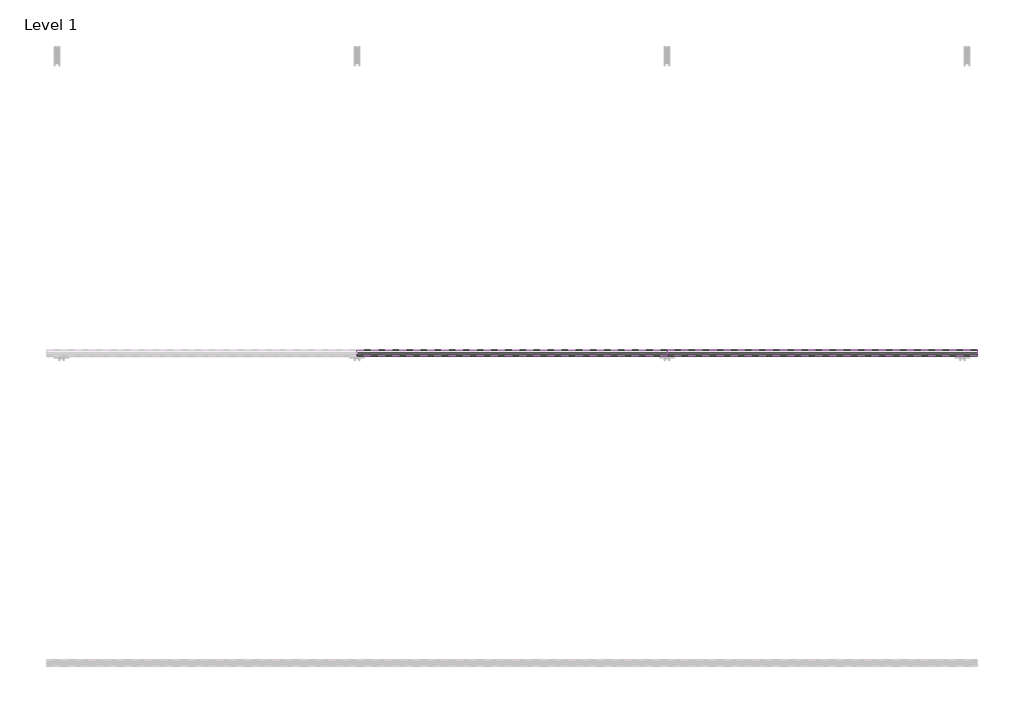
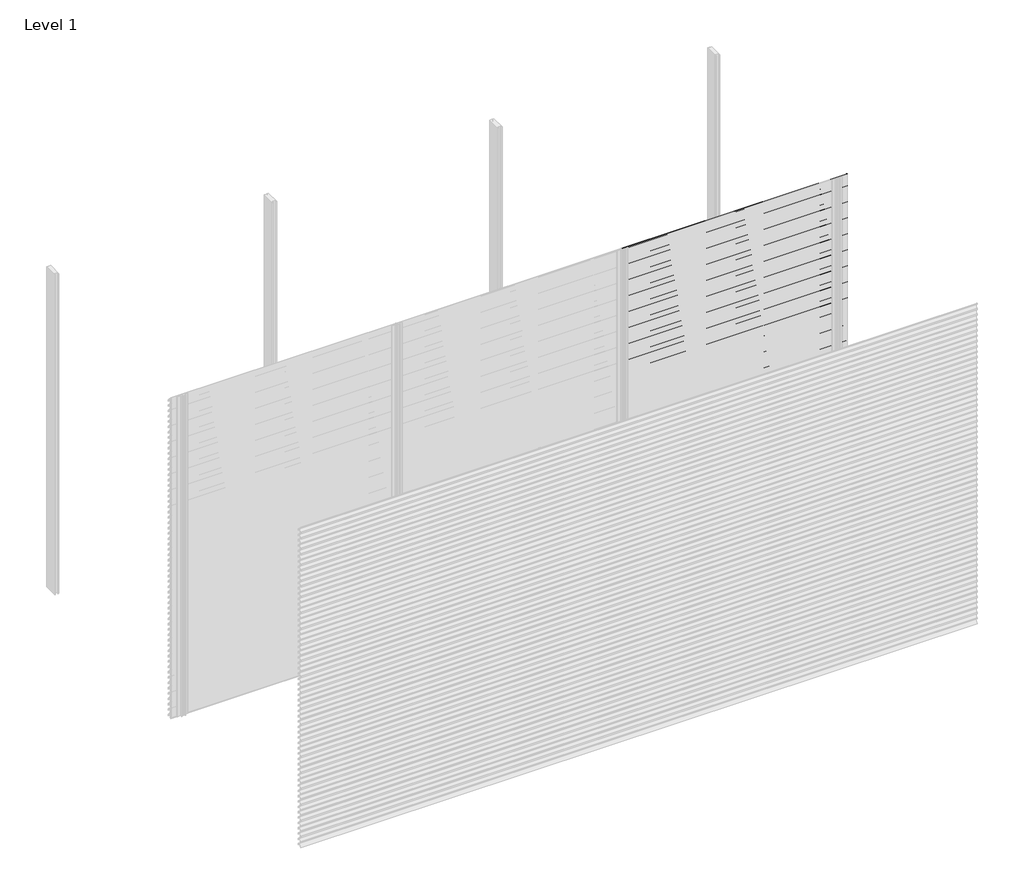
# One storey, part 5 of 38: 66 proxies.
"""IFC4 building model written with IfcOpenShell, lengths in millimetres."""

from ifc_helpers import new_model, si_unit, frame, origin, place, context, project, spatial, polyline, outline, extrude, element, save

model = new_model("IFC4")

# Units and contexts
model_context = context("Model", 3, world=origin())
ifc_project = project(units=[si_unit("LENGTHUNIT", "METRE", prefix="MILLI")], contexts=[model_context])

# Site, building, storey
site = spatial("IfcSite", under=ifc_project)
building = spatial("IfcBuilding", under=site)
storey = spatial("IfcBuildingStorey", under=building, Name="Level 1", Elevation=0.0)

# Proxies
placement = place(None, origin())
element("IfcBuildingElementProxy", 1, Name="Wall Sweeps", at=placement, inside=storey, context=model_context, shape_type="SweptSolid", body=[
    extrude(outline(polyline([(-53996.75, 1350.0), (-53996.75, 1339.19656), (-53974.6057113, 1326.4115489), (-53957.0, 1309.0472005), (-53957.0, 1294.0472005), (-53958.3, 1295.0268207), (-53958.3, 1308.5034593), (-53969.4914725, 1319.541504), (-53994.2797376, 1290.0), (-53995.9767671, 1290.0), (-53970.4200307, 1320.4573323), (-53975.3999793, 1325.3690091), (-53998.0, 1338.4171371), (-53998.0, 1350.0), (-53996.75, 1350.0)])), frame((2000.0, 0.0, 0.0), z_axis=(1.0, 0.0, 0.0), x_axis=(0.0, 1.0, 0.0)), (0.0, 0.0, 1.0), 2000.0),
])
element("IfcBuildingElementProxy", 2, Name="Wall Sweeps", at=placement, inside=storey, context=model_context, shape_type="SweptSolid", body=[
    extrude(outline(polyline([(-53996.75, 1300.0), (-53996.75, 1289.19656), (-53974.6057113, 1276.4115489), (-53957.0, 1259.0472005), (-53957.0, 1244.0472005), (-53958.3, 1245.0268207), (-53958.3, 1258.5034593), (-53969.4914725, 1269.541504), (-53994.2797376, 1240.0), (-53995.9767671, 1240.0), (-53970.4200307, 1270.4573323), (-53975.3999793, 1275.3690091), (-53998.0, 1288.4171371), (-53998.0, 1300.0), (-53996.75, 1300.0)])), frame((2000.0, 0.0, 0.0), z_axis=(1.0, 0.0, 0.0), x_axis=(0.0, 1.0, 0.0)), (0.0, 0.0, 1.0), 2000.0),
])
element("IfcBuildingElementProxy", 3, Name="Wall Sweeps", at=placement, inside=storey, context=model_context, shape_type="SweptSolid", body=[
    extrude(outline(polyline([(-53996.75, 1250.0), (-53996.75, 1239.19656), (-53974.6057113, 1226.4115489), (-53957.0, 1209.0472005), (-53957.0, 1194.0472005), (-53958.3, 1195.0268207), (-53958.3, 1208.5034593), (-53969.4914725, 1219.541504), (-53994.2797376, 1190.0), (-53995.9767671, 1190.0), (-53970.4200307, 1220.4573323), (-53975.3999793, 1225.3690091), (-53998.0, 1238.4171371), (-53998.0, 1250.0), (-53996.75, 1250.0)])), frame((2000.0, 0.0, 0.0), z_axis=(1.0, 0.0, 0.0), x_axis=(0.0, 1.0, 0.0)), (0.0, 0.0, 1.0), 2000.0),
])
element("IfcBuildingElementProxy", 4, Name="Wall Sweeps", at=placement, inside=storey, context=model_context, shape_type="SweptSolid", body=[
    extrude(outline(polyline([(-53996.75, 1200.0), (-53996.75, 1189.19656), (-53974.6057113, 1176.4115489), (-53957.0, 1159.0472005), (-53957.0, 1144.0472005), (-53958.3, 1145.0268207), (-53958.3, 1158.5034593), (-53969.4914725, 1169.541504), (-53994.2797376, 1140.0), (-53995.9767671, 1140.0), (-53970.4200307, 1170.4573323), (-53975.3999793, 1175.3690091), (-53998.0, 1188.4171371), (-53998.0, 1200.0), (-53996.75, 1200.0)])), frame((2000.0, 0.0, 0.0), z_axis=(1.0, 0.0, 0.0), x_axis=(0.0, 1.0, 0.0)), (0.0, 0.0, 1.0), 2000.0),
])
element("IfcBuildingElementProxy", 5, Name="Wall Sweeps", at=placement, inside=storey, context=model_context, shape_type="SweptSolid", body=[
    extrude(outline(polyline([(-53996.75, 1150.0), (-53996.75, 1139.19656), (-53974.6057113, 1126.4115489), (-53957.0, 1109.0472005), (-53957.0, 1094.0472005), (-53958.3, 1095.0268207), (-53958.3, 1108.5034593), (-53969.4914725, 1119.541504), (-53994.2797376, 1090.0), (-53995.9767671, 1090.0), (-53970.4200307, 1120.4573323), (-53975.3999793, 1125.3690091), (-53998.0, 1138.4171371), (-53998.0, 1150.0), (-53996.75, 1150.0)])), frame((2000.0, 0.0, 0.0), z_axis=(1.0, 0.0, 0.0), x_axis=(0.0, 1.0, 0.0)), (0.0, 0.0, 1.0), 2000.0),
])
element("IfcBuildingElementProxy", 6, Name="Wall Sweeps", at=placement, inside=storey, context=model_context, shape_type="SweptSolid", body=[
    extrude(outline(polyline([(-53996.75, 1100.0), (-53996.75, 1089.19656), (-53974.6057113, 1076.4115489), (-53957.0, 1059.0472005), (-53957.0, 1044.0472005), (-53958.3, 1045.0268207), (-53958.3, 1058.5034593), (-53969.4914725, 1069.541504), (-53994.2797376, 1040.0), (-53995.9767671, 1040.0), (-53970.4200307, 1070.4573323), (-53975.3999793, 1075.3690091), (-53998.0, 1088.4171371), (-53998.0, 1100.0), (-53996.75, 1100.0)])), frame((2000.0, 0.0, 0.0), z_axis=(1.0, 0.0, 0.0), x_axis=(0.0, 1.0, 0.0)), (0.0, 0.0, 1.0), 2000.0),
])
element("IfcBuildingElementProxy", 7, Name="Wall Sweeps", at=placement, inside=storey, context=model_context, shape_type="SweptSolid", body=[
    extrude(outline(polyline([(-53996.75, 1050.0), (-53996.75, 1039.19656), (-53974.6057113, 1026.4115489), (-53957.0, 1009.0472005), (-53957.0, 994.0472005), (-53958.3, 995.0268207), (-53958.3, 1008.5034593), (-53969.4914725, 1019.541504), (-53994.2797376, 990.0), (-53995.9767671, 990.0), (-53970.4200307, 1020.4573323), (-53975.3999793, 1025.3690091), (-53998.0, 1038.4171371), (-53998.0, 1050.0), (-53996.75, 1050.0)])), frame((2000.0, 0.0, 0.0), z_axis=(1.0, 0.0, 0.0), x_axis=(0.0, 1.0, 0.0)), (0.0, 0.0, 1.0), 2000.0),
])
element("IfcBuildingElementProxy", 8, Name="Wall Sweeps", at=placement, inside=storey, context=model_context, shape_type="SweptSolid", body=[
    extrude(outline(polyline([(-53996.75, 1000.0), (-53996.75, 989.19656), (-53974.6057113, 976.4115489), (-53957.0, 959.0472005), (-53957.0, 944.0472005), (-53958.3, 945.0268207), (-53958.3, 958.5034593), (-53969.4914725, 969.541504), (-53994.2797376, 940.0), (-53995.9767671, 940.0), (-53970.4200307, 970.4573323), (-53975.3999793, 975.3690091), (-53998.0, 988.4171371), (-53998.0, 1000.0), (-53996.75, 1000.0)])), frame((2000.0, 0.0, 0.0), z_axis=(1.0, 0.0, 0.0), x_axis=(0.0, 1.0, 0.0)), (0.0, 0.0, 1.0), 2000.0),
])
element("IfcBuildingElementProxy", 9, Name="Wall Sweeps", at=placement, inside=storey, context=model_context, shape_type="SweptSolid", body=[
    extrude(outline(polyline([(-53996.75, 950.0), (-53996.75, 939.19656), (-53974.6057113, 926.4115489), (-53957.0, 909.0472005), (-53957.0, 894.0472005), (-53958.3, 895.0268207), (-53958.3, 908.5034593), (-53969.4914725, 919.541504), (-53994.2797376, 890.0), (-53995.9767671, 890.0), (-53970.4200307, 920.4573323), (-53975.3999793, 925.3690091), (-53998.0, 938.4171371), (-53998.0, 950.0), (-53996.75, 950.0)])), frame((2000.0, 0.0, 0.0), z_axis=(1.0, 0.0, 0.0), x_axis=(0.0, 1.0, 0.0)), (0.0, 0.0, 1.0), 2000.0),
])
element("IfcBuildingElementProxy", 10, Name="Wall Sweeps", at=placement, inside=storey, context=model_context, shape_type="SweptSolid", body=[
    extrude(outline(polyline([(-53996.75, 900.0), (-53996.75, 889.19656), (-53974.6057113, 876.4115489), (-53957.0, 859.0472005), (-53957.0, 844.0472005), (-53958.3, 845.0268207), (-53958.3, 858.5034593), (-53969.4914725, 869.541504), (-53994.2797376, 840.0), (-53995.9767671, 840.0), (-53970.4200307, 870.4573323), (-53975.3999793, 875.3690091), (-53998.0, 888.4171371), (-53998.0, 900.0), (-53996.75, 900.0)])), frame((2000.0, 0.0, 0.0), z_axis=(1.0, 0.0, 0.0), x_axis=(0.0, 1.0, 0.0)), (0.0, 0.0, 1.0), 2000.0),
])
element("IfcBuildingElementProxy", 11, Name="Wall Sweeps", at=placement, inside=storey, context=model_context, shape_type="SweptSolid", body=[
    extrude(outline(polyline([(-53996.75, 850.0), (-53996.75, 839.19656), (-53974.6057113, 826.4115489), (-53957.0, 809.0472005), (-53957.0, 794.0472005), (-53958.3, 795.0268207), (-53958.3, 808.5034593), (-53969.4914725, 819.541504), (-53994.2797376, 790.0), (-53995.9767671, 790.0), (-53970.4200307, 820.4573323), (-53975.3999793, 825.3690091), (-53998.0, 838.4171371), (-53998.0, 850.0), (-53996.75, 850.0)])), frame((2000.0, 0.0, 0.0), z_axis=(1.0, 0.0, 0.0), x_axis=(0.0, 1.0, 0.0)), (0.0, 0.0, 1.0), 2000.0),
])
element("IfcBuildingElementProxy", 12, Name="Wall Sweeps", at=placement, inside=storey, context=model_context, shape_type="SweptSolid", body=[
    extrude(outline(polyline([(-53996.75, 800.0), (-53996.75, 789.19656), (-53974.6057113, 776.4115489), (-53957.0, 759.0472005), (-53957.0, 744.0472005), (-53958.3, 745.0268207), (-53958.3, 758.5034593), (-53969.4914725, 769.541504), (-53994.2797376, 740.0), (-53995.9767671, 740.0), (-53970.4200307, 770.4573323), (-53975.3999793, 775.3690091), (-53998.0, 788.4171371), (-53998.0, 800.0), (-53996.75, 800.0)])), frame((2000.0, 0.0, 0.0), z_axis=(1.0, 0.0, 0.0), x_axis=(0.0, 1.0, 0.0)), (0.0, 0.0, 1.0), 2000.0),
])
element("IfcBuildingElementProxy", 13, Name="Wall Sweeps", at=placement, inside=storey, context=model_context, shape_type="SweptSolid", body=[
    extrude(outline(polyline([(-53996.75, 750.0), (-53996.75, 739.19656), (-53974.6057113, 726.4115489), (-53957.0, 709.0472005), (-53957.0, 694.0472005), (-53958.3, 695.0268207), (-53958.3, 708.5034593), (-53969.4914725, 719.541504), (-53994.2797376, 690.0), (-53995.9767671, 690.0), (-53970.4200307, 720.4573323), (-53975.3999793, 725.3690091), (-53998.0, 738.4171371), (-53998.0, 750.0), (-53996.75, 750.0)])), frame((2000.0, 0.0, 0.0), z_axis=(1.0, 0.0, 0.0), x_axis=(0.0, 1.0, 0.0)), (0.0, 0.0, 1.0), 2000.0),
])
element("IfcBuildingElementProxy", 14, Name="Wall Sweeps", at=placement, inside=storey, context=model_context, shape_type="SweptSolid", body=[
    extrude(outline(polyline([(-53996.75, 700.0), (-53996.75, 689.19656), (-53974.6057113, 676.4115489), (-53957.0, 659.0472005), (-53957.0, 644.0472005), (-53958.3, 645.0268207), (-53958.3, 658.5034593), (-53969.4914725, 669.541504), (-53994.2797376, 640.0), (-53995.9767671, 640.0), (-53970.4200307, 670.4573323), (-53975.3999793, 675.3690091), (-53998.0, 688.4171371), (-53998.0, 700.0), (-53996.75, 700.0)])), frame((2000.0, 0.0, 0.0), z_axis=(1.0, 0.0, 0.0), x_axis=(0.0, 1.0, 0.0)), (0.0, 0.0, 1.0), 2000.0),
])
element("IfcBuildingElementProxy", 15, Name="Wall Sweeps", at=placement, inside=storey, context=model_context, shape_type="SweptSolid", body=[
    extrude(outline(polyline([(-53996.75, 650.0), (-53996.75, 639.19656), (-53974.6057113, 626.4115489), (-53957.0, 609.0472005), (-53957.0, 594.0472005), (-53958.3, 595.0268207), (-53958.3, 608.5034593), (-53969.4914725, 619.541504), (-53994.2797376, 590.0), (-53995.9767671, 590.0), (-53970.4200307, 620.4573323), (-53975.3999793, 625.3690091), (-53998.0, 638.4171371), (-53998.0, 650.0), (-53996.75, 650.0)])), frame((2000.0, 0.0, 0.0), z_axis=(1.0, 0.0, 0.0), x_axis=(0.0, 1.0, 0.0)), (0.0, 0.0, 1.0), 2000.0),
])
element("IfcBuildingElementProxy", 16, Name="Wall Sweeps", at=placement, inside=storey, context=model_context, shape_type="SweptSolid", body=[
    extrude(outline(polyline([(-53996.75, 600.0), (-53996.75, 589.19656), (-53974.6057113, 576.4115489), (-53957.0, 559.0472005), (-53957.0, 544.0472005), (-53958.3, 545.0268207), (-53958.3, 558.5034593), (-53969.4914725, 569.541504), (-53994.2797376, 540.0), (-53995.9767671, 540.0), (-53970.4200307, 570.4573323), (-53975.3999793, 575.3690091), (-53998.0, 588.4171371), (-53998.0, 600.0), (-53996.75, 600.0)])), frame((2000.0, 0.0, 0.0), z_axis=(1.0, 0.0, 0.0), x_axis=(0.0, 1.0, 0.0)), (0.0, 0.0, 1.0), 2000.0),
])
element("IfcBuildingElementProxy", 17, Name="Wall Sweeps", at=placement, inside=storey, context=model_context, shape_type="SweptSolid", body=[
    extrude(outline(polyline([(-53996.75, 550.0), (-53996.75, 539.19656), (-53974.6057113, 526.4115489), (-53957.0, 509.0472005), (-53957.0, 494.0472005), (-53958.3, 495.0268207), (-53958.3, 508.5034593), (-53969.4914725, 519.541504), (-53994.2797376, 490.0), (-53995.9767671, 490.0), (-53970.4200307, 520.4573323), (-53975.3999793, 525.3690091), (-53998.0, 538.4171371), (-53998.0, 550.0), (-53996.75, 550.0)])), frame((2000.0, 0.0, 0.0), z_axis=(1.0, 0.0, 0.0), x_axis=(0.0, 1.0, 0.0)), (0.0, 0.0, 1.0), 2000.0),
])
element("IfcBuildingElementProxy", 18, Name="Wall Sweeps", at=placement, inside=storey, context=model_context, shape_type="SweptSolid", body=[
    extrude(outline(polyline([(-53996.75, 500.0), (-53996.75, 489.19656), (-53974.6057113, 476.4115489), (-53957.0, 459.0472005), (-53957.0, 444.0472005), (-53958.3, 445.0268207), (-53958.3, 458.5034593), (-53969.4914725, 469.541504), (-53994.2797376, 440.0), (-53995.9767671, 440.0), (-53970.4200307, 470.4573323), (-53975.3999793, 475.3690091), (-53998.0, 488.4171371), (-53998.0, 500.0), (-53996.75, 500.0)])), frame((2000.0, 0.0, 0.0), z_axis=(1.0, 0.0, 0.0), x_axis=(0.0, 1.0, 0.0)), (0.0, 0.0, 1.0), 2000.0),
])
element("IfcBuildingElementProxy", 19, Name="Wall Sweeps", at=placement, inside=storey, context=model_context, shape_type="SweptSolid", body=[
    extrude(outline(polyline([(-53996.75, 450.0), (-53996.75, 439.19656), (-53974.6057113, 426.4115489), (-53957.0, 409.0472005), (-53957.0, 394.0472005), (-53958.3, 395.0268207), (-53958.3, 408.5034593), (-53969.4914725, 419.541504), (-53994.2797376, 390.0), (-53995.9767671, 390.0), (-53970.4200307, 420.4573323), (-53975.3999793, 425.3690091), (-53998.0, 438.4171371), (-53998.0, 450.0), (-53996.75, 450.0)])), frame((2000.0, 0.0, 0.0), z_axis=(1.0, 0.0, 0.0), x_axis=(0.0, 1.0, 0.0)), (0.0, 0.0, 1.0), 2000.0),
])
element("IfcBuildingElementProxy", 20, Name="Wall Sweeps", at=placement, inside=storey, context=model_context, shape_type="SweptSolid", body=[
    extrude(outline(polyline([(-53996.75, 400.0), (-53996.75, 389.19656), (-53974.6057113, 376.4115489), (-53957.0, 359.0472005), (-53957.0, 344.0472005), (-53958.3, 345.0268207), (-53958.3, 358.5034593), (-53969.4914725, 369.541504), (-53994.2797376, 340.0), (-53995.9767671, 340.0), (-53970.4200307, 370.4573323), (-53975.3999793, 375.3690091), (-53998.0, 388.4171371), (-53998.0, 400.0), (-53996.75, 400.0)])), frame((2000.0, 0.0, 0.0), z_axis=(1.0, 0.0, 0.0), x_axis=(0.0, 1.0, 0.0)), (0.0, 0.0, 1.0), 2000.0),
])
element("IfcBuildingElementProxy", 21, Name="Wall Sweeps", at=placement, inside=storey, context=model_context, shape_type="SweptSolid", body=[
    extrude(outline(polyline([(-53996.75, 350.0), (-53996.75, 339.19656), (-53974.6057113, 326.4115489), (-53957.0, 309.0472005), (-53957.0, 294.0472005), (-53958.3, 295.0268207), (-53958.3, 308.5034593), (-53969.4914725, 319.541504), (-53994.2797376, 290.0), (-53995.9767671, 290.0), (-53970.4200307, 320.4573323), (-53975.3999793, 325.3690091), (-53998.0, 338.4171371), (-53998.0, 350.0), (-53996.75, 350.0)])), frame((2000.0, 0.0, 0.0), z_axis=(1.0, 0.0, 0.0), x_axis=(0.0, 1.0, 0.0)), (0.0, 0.0, 1.0), 2000.0),
])
element("IfcBuildingElementProxy", 22, Name="Wall Sweeps", at=placement, inside=storey, context=model_context, shape_type="SweptSolid", body=[
    extrude(outline(polyline([(-53996.75, 300.0), (-53996.75, 289.19656), (-53974.6057113, 276.4115489), (-53957.0, 259.0472005), (-53957.0, 244.0472005), (-53958.3, 245.0268207), (-53958.3, 258.5034593), (-53969.4914725, 269.541504), (-53994.2797376, 240.0), (-53995.9767671, 240.0), (-53970.4200307, 270.4573323), (-53975.3999793, 275.3690091), (-53998.0, 288.4171371), (-53998.0, 300.0), (-53996.75, 300.0)])), frame((2000.0, 0.0, 0.0), z_axis=(1.0, 0.0, 0.0), x_axis=(0.0, 1.0, 0.0)), (0.0, 0.0, 1.0), 2000.0),
])
element("IfcBuildingElementProxy", 23, Name="Wall Sweeps", at=placement, inside=storey, context=model_context, shape_type="SweptSolid", body=[
    extrude(outline(polyline([(-53996.75, 250.0), (-53996.75, 239.19656), (-53974.6057113, 226.4115489), (-53957.0, 209.0472005), (-53957.0, 194.0472005), (-53958.3, 195.0268207), (-53958.3, 208.5034593), (-53969.4914725, 219.541504), (-53994.2797376, 190.0), (-53995.9767671, 190.0), (-53970.4200307, 220.4573323), (-53975.3999793, 225.3690091), (-53998.0, 238.4171371), (-53998.0, 250.0), (-53996.75, 250.0)])), frame((2000.0, 0.0, 0.0), z_axis=(1.0, 0.0, 0.0), x_axis=(0.0, 1.0, 0.0)), (0.0, 0.0, 1.0), 2000.0),
])
element("IfcBuildingElementProxy", 24, Name="Wall Sweeps", at=placement, inside=storey, context=model_context, shape_type="SweptSolid", body=[
    extrude(outline(polyline([(-53996.75, 200.0), (-53996.75, 189.19656), (-53974.6057113, 176.4115489), (-53957.0, 159.0472005), (-53957.0, 144.0472005), (-53958.3, 145.0268207), (-53958.3, 158.5034593), (-53969.4914725, 169.541504), (-53994.2797376, 140.0), (-53995.9767671, 140.0), (-53970.4200307, 170.4573323), (-53975.3999793, 175.3690091), (-53998.0, 188.4171371), (-53998.0, 200.0), (-53996.75, 200.0)])), frame((2000.0, 0.0, 0.0), z_axis=(1.0, 0.0, 0.0), x_axis=(0.0, 1.0, 0.0)), (0.0, 0.0, 1.0), 2000.0),
])
element("IfcBuildingElementProxy", 25, Name="Wall Sweeps", at=placement, inside=storey, context=model_context, shape_type="SweptSolid", body=[
    extrude(outline(polyline([(-53996.75, 150.0), (-53996.75, 139.19656), (-53974.6057113, 126.4115489), (-53957.0, 109.0472005), (-53957.0, 94.0472005), (-53958.3, 95.0268207), (-53958.3, 108.5034593), (-53969.4914725, 119.541504), (-53994.2797376, 90.0), (-53995.9767671, 90.0), (-53970.4200307, 120.4573323), (-53975.3999793, 125.3690091), (-53998.0, 138.4171371), (-53998.0, 150.0), (-53996.75, 150.0)])), frame((2000.0, 0.0, 0.0), z_axis=(1.0, 0.0, 0.0), x_axis=(0.0, 1.0, 0.0)), (0.0, 0.0, 1.0), 2000.0),
])
element("IfcBuildingElementProxy", 26, Name="Wall Sweeps", at=placement, inside=storey, context=model_context, shape_type="SweptSolid", body=[
    extrude(outline(polyline([(-53996.75, 100.0), (-53996.75, 89.19656), (-53974.6057113, 76.4115489), (-53957.0, 59.0472005), (-53957.0, 44.0472005), (-53958.3, 45.0268207), (-53958.3, 58.5034593), (-53969.4914725, 69.541504), (-53994.2797376, 40.0), (-53995.9767671, 40.0), (-53970.4200307, 70.4573323), (-53975.3999793, 75.3690091), (-53998.0, 88.4171371), (-53998.0, 100.0), (-53996.75, 100.0)])), frame((2000.0, 0.0, 0.0), z_axis=(1.0, 0.0, 0.0), x_axis=(0.0, 1.0, 0.0)), (0.0, 0.0, 1.0), 2000.0),
])
element("IfcBuildingElementProxy", 27, Name="Wall Sweeps", at=placement, inside=storey, context=model_context, shape_type="SweptSolid", body=[
    extrude(outline(polyline([(-53996.75, 50.0), (-53996.75, 39.19656), (-53974.6057113, 26.4115489), (-53957.0, 9.0472005), (-53957.0, -5.9527995), (-53958.3, -4.9731793), (-53958.3, 8.5034593), (-53969.4914725, 19.541504), (-53994.2797376, -10.0), (-53995.9767671, -10.0), (-53970.4200307, 20.4573323), (-53975.3999793, 25.3690091), (-53998.0, 38.4171371), (-53998.0, 50.0), (-53996.75, 50.0)])), frame((2000.0, 0.0, 0.0), z_axis=(1.0, 0.0, 0.0), x_axis=(0.0, 1.0, 0.0)), (0.0, 0.0, 1.0), 2000.0),
])
element("IfcBuildingElementProxy", 28, Name="Wall Sweeps", at=placement, inside=storey, context=model_context, shape_type="SweptSolid", body=[
    extrude(outline(polyline([(-53996.75, 3000.0), (-53996.75, 2989.19656), (-53974.6057113, 2976.4115489), (-53957.0, 2959.0472005), (-53957.0, 2944.0472005), (-53958.3, 2945.0268207), (-53958.3, 2958.5034593), (-53969.4914725, 2969.541504), (-53994.2797376, 2940.0), (-53995.9767671, 2940.0), (-53970.4200307, 2970.4573323), (-53975.3999793, 2975.3690091), (-53998.0, 2988.4171371), (-53998.0, 3000.0), (-53996.75, 3000.0)])), frame((4000.0, 0.0, 0.0), z_axis=(1.0, 0.0, 0.0), x_axis=(0.0, 1.0, 0.0)), (0.0, 0.0, 1.0), 2000.0),
])
element("IfcBuildingElementProxy", 29, Name="Wall Sweeps", at=placement, inside=storey, context=model_context, shape_type="SweptSolid", body=[
    extrude(outline(polyline([(-53996.75, 2950.0), (-53996.75, 2939.19656), (-53974.6057113, 2926.4115489), (-53957.0, 2909.0472005), (-53957.0, 2894.0472005), (-53958.3, 2895.0268207), (-53958.3, 2908.5034593), (-53969.4914725, 2919.541504), (-53994.2797376, 2890.0), (-53995.9767671, 2890.0), (-53970.4200307, 2920.4573323), (-53975.3999793, 2925.3690091), (-53998.0, 2938.4171371), (-53998.0, 2950.0), (-53996.75, 2950.0)])), frame((4000.0, 0.0, 0.0), z_axis=(1.0, 0.0, 0.0), x_axis=(0.0, 1.0, 0.0)), (0.0, 0.0, 1.0), 2000.0),
])
element("IfcBuildingElementProxy", 30, Name="Wall Sweeps", at=placement, inside=storey, context=model_context, shape_type="SweptSolid", body=[
    extrude(outline(polyline([(-53996.75, 2900.0), (-53996.75, 2889.19656), (-53974.6057113, 2876.4115489), (-53957.0, 2859.0472005), (-53957.0, 2844.0472005), (-53958.3, 2845.0268207), (-53958.3, 2858.5034593), (-53969.4914725, 2869.541504), (-53994.2797376, 2840.0), (-53995.9767671, 2840.0), (-53970.4200307, 2870.4573323), (-53975.3999793, 2875.3690091), (-53998.0, 2888.4171371), (-53998.0, 2900.0), (-53996.75, 2900.0)])), frame((4000.0, 0.0, 0.0), z_axis=(1.0, 0.0, 0.0), x_axis=(0.0, 1.0, 0.0)), (0.0, 0.0, 1.0), 2000.0),
])
element("IfcBuildingElementProxy", 31, Name="Wall Sweeps", at=placement, inside=storey, context=model_context, shape_type="SweptSolid", body=[
    extrude(outline(polyline([(-53996.75, 2850.0), (-53996.75, 2839.19656), (-53974.6057113, 2826.4115489), (-53957.0, 2809.0472005), (-53957.0, 2794.0472005), (-53958.3, 2795.0268207), (-53958.3, 2808.5034593), (-53969.4914725, 2819.541504), (-53994.2797376, 2790.0), (-53995.9767671, 2790.0), (-53970.4200307, 2820.4573323), (-53975.3999793, 2825.3690091), (-53998.0, 2838.4171371), (-53998.0, 2850.0), (-53996.75, 2850.0)])), frame((4000.0, 0.0, 0.0), z_axis=(1.0, 0.0, 0.0), x_axis=(0.0, 1.0, 0.0)), (0.0, 0.0, 1.0), 2000.0),
])
element("IfcBuildingElementProxy", 32, Name="Wall Sweeps", at=placement, inside=storey, context=model_context, shape_type="SweptSolid", body=[
    extrude(outline(polyline([(-53996.75, 2800.0), (-53996.75, 2789.19656), (-53974.6057113, 2776.4115489), (-53957.0, 2759.0472005), (-53957.0, 2744.0472005), (-53958.3, 2745.0268207), (-53958.3, 2758.5034593), (-53969.4914725, 2769.541504), (-53994.2797376, 2740.0), (-53995.9767671, 2740.0), (-53970.4200307, 2770.4573323), (-53975.3999793, 2775.3690091), (-53998.0, 2788.4171371), (-53998.0, 2800.0), (-53996.75, 2800.0)])), frame((4000.0, 0.0, 0.0), z_axis=(1.0, 0.0, 0.0), x_axis=(0.0, 1.0, 0.0)), (0.0, 0.0, 1.0), 2000.0),
])
element("IfcBuildingElementProxy", 33, Name="Wall Sweeps", at=placement, inside=storey, context=model_context, shape_type="SweptSolid", body=[
    extrude(outline(polyline([(-53996.75, 2750.0), (-53996.75, 2739.19656), (-53974.6057113, 2726.4115489), (-53957.0, 2709.0472005), (-53957.0, 2694.0472005), (-53958.3, 2695.0268207), (-53958.3, 2708.5034593), (-53969.4914725, 2719.541504), (-53994.2797376, 2690.0), (-53995.9767671, 2690.0), (-53970.4200307, 2720.4573323), (-53975.3999793, 2725.3690091), (-53998.0, 2738.4171371), (-53998.0, 2750.0), (-53996.75, 2750.0)])), frame((4000.0, 0.0, 0.0), z_axis=(1.0, 0.0, 0.0), x_axis=(0.0, 1.0, 0.0)), (0.0, 0.0, 1.0), 2000.0),
])
element("IfcBuildingElementProxy", 34, Name="Wall Sweeps", at=placement, inside=storey, context=model_context, shape_type="SweptSolid", body=[
    extrude(outline(polyline([(-53996.75, 2700.0), (-53996.75, 2689.19656), (-53974.6057113, 2676.4115489), (-53957.0, 2659.0472005), (-53957.0, 2644.0472005), (-53958.3, 2645.0268207), (-53958.3, 2658.5034593), (-53969.4914725, 2669.541504), (-53994.2797376, 2640.0), (-53995.9767671, 2640.0), (-53970.4200307, 2670.4573323), (-53975.3999793, 2675.3690091), (-53998.0, 2688.4171371), (-53998.0, 2700.0), (-53996.75, 2700.0)])), frame((4000.0, 0.0, 0.0), z_axis=(1.0, 0.0, 0.0), x_axis=(0.0, 1.0, 0.0)), (0.0, 0.0, 1.0), 2000.0),
])
element("IfcBuildingElementProxy", 35, Name="Wall Sweeps", at=placement, inside=storey, context=model_context, shape_type="SweptSolid", body=[
    extrude(outline(polyline([(-53996.75, 2650.0), (-53996.75, 2639.19656), (-53974.6057113, 2626.4115489), (-53957.0, 2609.0472005), (-53957.0, 2594.0472005), (-53958.3, 2595.0268207), (-53958.3, 2608.5034593), (-53969.4914725, 2619.541504), (-53994.2797376, 2590.0), (-53995.9767671, 2590.0), (-53970.4200307, 2620.4573323), (-53975.3999793, 2625.3690091), (-53998.0, 2638.4171371), (-53998.0, 2650.0), (-53996.75, 2650.0)])), frame((4000.0, 0.0, 0.0), z_axis=(1.0, 0.0, 0.0), x_axis=(0.0, 1.0, 0.0)), (0.0, 0.0, 1.0), 2000.0),
])
element("IfcBuildingElementProxy", 36, Name="Wall Sweeps", at=placement, inside=storey, context=model_context, shape_type="SweptSolid", body=[
    extrude(outline(polyline([(-53996.75, 2600.0), (-53996.75, 2589.19656), (-53974.6057113, 2576.4115489), (-53957.0, 2559.0472005), (-53957.0, 2544.0472005), (-53958.3, 2545.0268207), (-53958.3, 2558.5034593), (-53969.4914725, 2569.541504), (-53994.2797376, 2540.0), (-53995.9767671, 2540.0), (-53970.4200307, 2570.4573323), (-53975.3999793, 2575.3690091), (-53998.0, 2588.4171371), (-53998.0, 2600.0), (-53996.75, 2600.0)])), frame((4000.0, 0.0, 0.0), z_axis=(1.0, 0.0, 0.0), x_axis=(0.0, 1.0, 0.0)), (0.0, 0.0, 1.0), 2000.0),
])
element("IfcBuildingElementProxy", 37, Name="Wall Sweeps", at=placement, inside=storey, context=model_context, shape_type="SweptSolid", body=[
    extrude(outline(polyline([(-53996.75, 2550.0), (-53996.75, 2539.19656), (-53974.6057113, 2526.4115489), (-53957.0, 2509.0472005), (-53957.0, 2494.0472005), (-53958.3, 2495.0268207), (-53958.3, 2508.5034593), (-53969.4914725, 2519.541504), (-53994.2797376, 2490.0), (-53995.9767671, 2490.0), (-53970.4200307, 2520.4573323), (-53975.3999793, 2525.3690091), (-53998.0, 2538.4171371), (-53998.0, 2550.0), (-53996.75, 2550.0)])), frame((4000.0, 0.0, 0.0), z_axis=(1.0, 0.0, 0.0), x_axis=(0.0, 1.0, 0.0)), (0.0, 0.0, 1.0), 2000.0),
])
element("IfcBuildingElementProxy", 38, Name="Wall Sweeps", at=placement, inside=storey, context=model_context, shape_type="SweptSolid", body=[
    extrude(outline(polyline([(-53996.75, 2500.0), (-53996.75, 2489.19656), (-53974.6057113, 2476.4115489), (-53957.0, 2459.0472005), (-53957.0, 2444.0472005), (-53958.3, 2445.0268207), (-53958.3, 2458.5034593), (-53969.4914725, 2469.541504), (-53994.2797376, 2440.0), (-53995.9767671, 2440.0), (-53970.4200307, 2470.4573323), (-53975.3999793, 2475.3690091), (-53998.0, 2488.4171371), (-53998.0, 2500.0), (-53996.75, 2500.0)])), frame((4000.0, 0.0, 0.0), z_axis=(1.0, 0.0, 0.0), x_axis=(0.0, 1.0, 0.0)), (0.0, 0.0, 1.0), 2000.0),
])
element("IfcBuildingElementProxy", 39, Name="Wall Sweeps", at=placement, inside=storey, context=model_context, shape_type="SweptSolid", body=[
    extrude(outline(polyline([(-53996.75, 2450.0), (-53996.75, 2439.19656), (-53974.6057113, 2426.4115489), (-53957.0, 2409.0472005), (-53957.0, 2394.0472005), (-53958.3, 2395.0268207), (-53958.3, 2408.5034593), (-53969.4914725, 2419.541504), (-53994.2797376, 2390.0), (-53995.9767671, 2390.0), (-53970.4200307, 2420.4573323), (-53975.3999793, 2425.3690091), (-53998.0, 2438.4171371), (-53998.0, 2450.0), (-53996.75, 2450.0)])), frame((4000.0, 0.0, 0.0), z_axis=(1.0, 0.0, 0.0), x_axis=(0.0, 1.0, 0.0)), (0.0, 0.0, 1.0), 2000.0),
])
element("IfcBuildingElementProxy", 40, Name="Wall Sweeps", at=placement, inside=storey, context=model_context, shape_type="SweptSolid", body=[
    extrude(outline(polyline([(-53996.75, 2400.0), (-53996.75, 2389.19656), (-53974.6057113, 2376.4115489), (-53957.0, 2359.0472005), (-53957.0, 2344.0472005), (-53958.3, 2345.0268207), (-53958.3, 2358.5034593), (-53969.4914725, 2369.541504), (-53994.2797376, 2340.0), (-53995.9767671, 2340.0), (-53970.4200307, 2370.4573323), (-53975.3999793, 2375.3690091), (-53998.0, 2388.4171371), (-53998.0, 2400.0), (-53996.75, 2400.0)])), frame((4000.0, 0.0, 0.0), z_axis=(1.0, 0.0, 0.0), x_axis=(0.0, 1.0, 0.0)), (0.0, 0.0, 1.0), 2000.0),
])
element("IfcBuildingElementProxy", 41, Name="Wall Sweeps", at=placement, inside=storey, context=model_context, shape_type="SweptSolid", body=[
    extrude(outline(polyline([(-53996.75, 2350.0), (-53996.75, 2339.19656), (-53974.6057113, 2326.4115489), (-53957.0, 2309.0472005), (-53957.0, 2294.0472005), (-53958.3, 2295.0268207), (-53958.3, 2308.5034593), (-53969.4914725, 2319.541504), (-53994.2797376, 2290.0), (-53995.9767671, 2290.0), (-53970.4200307, 2320.4573323), (-53975.3999793, 2325.3690091), (-53998.0, 2338.4171371), (-53998.0, 2350.0), (-53996.75, 2350.0)])), frame((4000.0, 0.0, 0.0), z_axis=(1.0, 0.0, 0.0), x_axis=(0.0, 1.0, 0.0)), (0.0, 0.0, 1.0), 2000.0),
])
element("IfcBuildingElementProxy", 42, Name="Wall Sweeps", at=placement, inside=storey, context=model_context, shape_type="SweptSolid", body=[
    extrude(outline(polyline([(-53996.75, 2300.0), (-53996.75, 2289.19656), (-53974.6057113, 2276.4115489), (-53957.0, 2259.0472005), (-53957.0, 2244.0472005), (-53958.3, 2245.0268207), (-53958.3, 2258.5034593), (-53969.4914725, 2269.541504), (-53994.2797376, 2240.0), (-53995.9767671, 2240.0), (-53970.4200307, 2270.4573323), (-53975.3999793, 2275.3690091), (-53998.0, 2288.4171371), (-53998.0, 2300.0), (-53996.75, 2300.0)])), frame((4000.0, 0.0, 0.0), z_axis=(1.0, 0.0, 0.0), x_axis=(0.0, 1.0, 0.0)), (0.0, 0.0, 1.0), 2000.0),
])
element("IfcBuildingElementProxy", 43, Name="Wall Sweeps", at=placement, inside=storey, context=model_context, shape_type="SweptSolid", body=[
    extrude(outline(polyline([(-53996.75, 2250.0), (-53996.75, 2239.19656), (-53974.6057113, 2226.4115489), (-53957.0, 2209.0472005), (-53957.0, 2194.0472005), (-53958.3, 2195.0268207), (-53958.3, 2208.5034593), (-53969.4914725, 2219.541504), (-53994.2797376, 2190.0), (-53995.9767671, 2190.0), (-53970.4200307, 2220.4573323), (-53975.3999793, 2225.3690091), (-53998.0, 2238.4171371), (-53998.0, 2250.0), (-53996.75, 2250.0)])), frame((4000.0, 0.0, 0.0), z_axis=(1.0, 0.0, 0.0), x_axis=(0.0, 1.0, 0.0)), (0.0, 0.0, 1.0), 2000.0),
])
element("IfcBuildingElementProxy", 44, Name="Wall Sweeps", at=placement, inside=storey, context=model_context, shape_type="SweptSolid", body=[
    extrude(outline(polyline([(-53996.75, 2200.0), (-53996.75, 2189.19656), (-53974.6057113, 2176.4115489), (-53957.0, 2159.0472005), (-53957.0, 2144.0472005), (-53958.3, 2145.0268207), (-53958.3, 2158.5034593), (-53969.4914725, 2169.541504), (-53994.2797376, 2140.0), (-53995.9767671, 2140.0), (-53970.4200307, 2170.4573323), (-53975.3999793, 2175.3690091), (-53998.0, 2188.4171371), (-53998.0, 2200.0), (-53996.75, 2200.0)])), frame((4000.0, 0.0, 0.0), z_axis=(1.0, 0.0, 0.0), x_axis=(0.0, 1.0, 0.0)), (0.0, 0.0, 1.0), 2000.0),
])
element("IfcBuildingElementProxy", 45, Name="Wall Sweeps", at=placement, inside=storey, context=model_context, shape_type="SweptSolid", body=[
    extrude(outline(polyline([(-53996.75, 2150.0), (-53996.75, 2139.19656), (-53974.6057113, 2126.4115489), (-53957.0, 2109.0472005), (-53957.0, 2094.0472005), (-53958.3, 2095.0268207), (-53958.3, 2108.5034593), (-53969.4914725, 2119.541504), (-53994.2797376, 2090.0), (-53995.9767671, 2090.0), (-53970.4200307, 2120.4573323), (-53975.3999793, 2125.3690091), (-53998.0, 2138.4171371), (-53998.0, 2150.0), (-53996.75, 2150.0)])), frame((4000.0, 0.0, 0.0), z_axis=(1.0, 0.0, 0.0), x_axis=(0.0, 1.0, 0.0)), (0.0, 0.0, 1.0), 2000.0),
])
element("IfcBuildingElementProxy", 46, Name="Wall Sweeps", at=placement, inside=storey, context=model_context, shape_type="SweptSolid", body=[
    extrude(outline(polyline([(-53996.75, 2100.0), (-53996.75, 2089.19656), (-53974.6057113, 2076.4115489), (-53957.0, 2059.0472005), (-53957.0, 2044.0472005), (-53958.3, 2045.0268207), (-53958.3, 2058.5034593), (-53969.4914725, 2069.541504), (-53994.2797376, 2040.0), (-53995.9767671, 2040.0), (-53970.4200307, 2070.4573323), (-53975.3999793, 2075.3690091), (-53998.0, 2088.4171371), (-53998.0, 2100.0), (-53996.75, 2100.0)])), frame((4000.0, 0.0, 0.0), z_axis=(1.0, 0.0, 0.0), x_axis=(0.0, 1.0, 0.0)), (0.0, 0.0, 1.0), 2000.0),
])
element("IfcBuildingElementProxy", 47, Name="Wall Sweeps", at=placement, inside=storey, context=model_context, shape_type="SweptSolid", body=[
    extrude(outline(polyline([(-53996.75, 2050.0), (-53996.75, 2039.19656), (-53974.6057113, 2026.4115489), (-53957.0, 2009.0472005), (-53957.0, 1994.0472005), (-53958.3, 1995.0268207), (-53958.3, 2008.5034593), (-53969.4914725, 2019.541504), (-53994.2797376, 1990.0), (-53995.9767671, 1990.0), (-53970.4200307, 2020.4573323), (-53975.3999793, 2025.3690091), (-53998.0, 2038.4171371), (-53998.0, 2050.0), (-53996.75, 2050.0)])), frame((4000.0, 0.0, 0.0), z_axis=(1.0, 0.0, 0.0), x_axis=(0.0, 1.0, 0.0)), (0.0, 0.0, 1.0), 2000.0),
])
element("IfcBuildingElementProxy", 48, Name="Wall Sweeps", at=placement, inside=storey, context=model_context, shape_type="SweptSolid", body=[
    extrude(outline(polyline([(-53996.75, 2000.0), (-53996.75, 1989.19656), (-53974.6057113, 1976.4115489), (-53957.0, 1959.0472005), (-53957.0, 1944.0472005), (-53958.3, 1945.0268207), (-53958.3, 1958.5034593), (-53969.4914725, 1969.541504), (-53994.2797376, 1940.0), (-53995.9767671, 1940.0), (-53970.4200307, 1970.4573323), (-53975.3999793, 1975.3690091), (-53998.0, 1988.4171371), (-53998.0, 2000.0), (-53996.75, 2000.0)])), frame((4000.0, 0.0, 0.0), z_axis=(1.0, 0.0, 0.0), x_axis=(0.0, 1.0, 0.0)), (0.0, 0.0, 1.0), 2000.0),
])
element("IfcBuildingElementProxy", 49, Name="Wall Sweeps", at=placement, inside=storey, context=model_context, shape_type="SweptSolid", body=[
    extrude(outline(polyline([(-53996.75, 1950.0), (-53996.75, 1939.19656), (-53974.6057113, 1926.4115489), (-53957.0, 1909.0472005), (-53957.0, 1894.0472005), (-53958.3, 1895.0268207), (-53958.3, 1908.5034593), (-53969.4914725, 1919.541504), (-53994.2797376, 1890.0), (-53995.9767671, 1890.0), (-53970.4200307, 1920.4573323), (-53975.3999793, 1925.3690091), (-53998.0, 1938.4171371), (-53998.0, 1950.0), (-53996.75, 1950.0)])), frame((4000.0, 0.0, 0.0), z_axis=(1.0, 0.0, 0.0), x_axis=(0.0, 1.0, 0.0)), (0.0, 0.0, 1.0), 2000.0),
])
element("IfcBuildingElementProxy", 50, Name="Wall Sweeps", at=placement, inside=storey, context=model_context, shape_type="SweptSolid", body=[
    extrude(outline(polyline([(-53996.75, 1900.0), (-53996.75, 1889.19656), (-53974.6057113, 1876.4115489), (-53957.0, 1859.0472005), (-53957.0, 1844.0472005), (-53958.3, 1845.0268207), (-53958.3, 1858.5034593), (-53969.4914725, 1869.541504), (-53994.2797376, 1840.0), (-53995.9767671, 1840.0), (-53970.4200307, 1870.4573323), (-53975.3999793, 1875.3690091), (-53998.0, 1888.4171371), (-53998.0, 1900.0), (-53996.75, 1900.0)])), frame((4000.0, 0.0, 0.0), z_axis=(1.0, 0.0, 0.0), x_axis=(0.0, 1.0, 0.0)), (0.0, 0.0, 1.0), 2000.0),
])
element("IfcBuildingElementProxy", 51, Name="Wall Sweeps", at=placement, inside=storey, context=model_context, shape_type="SweptSolid", body=[
    extrude(outline(polyline([(-53996.75, 1850.0), (-53996.75, 1839.19656), (-53974.6057113, 1826.4115489), (-53957.0, 1809.0472005), (-53957.0, 1794.0472005), (-53958.3, 1795.0268207), (-53958.3, 1808.5034593), (-53969.4914725, 1819.541504), (-53994.2797376, 1790.0), (-53995.9767671, 1790.0), (-53970.4200307, 1820.4573323), (-53975.3999793, 1825.3690091), (-53998.0, 1838.4171371), (-53998.0, 1850.0), (-53996.75, 1850.0)])), frame((4000.0, 0.0, 0.0), z_axis=(1.0, 0.0, 0.0), x_axis=(0.0, 1.0, 0.0)), (0.0, 0.0, 1.0), 2000.0),
])
element("IfcBuildingElementProxy", 52, Name="Wall Sweeps", at=placement, inside=storey, context=model_context, shape_type="SweptSolid", body=[
    extrude(outline(polyline([(-53996.75, 1800.0), (-53996.75, 1789.19656), (-53974.6057113, 1776.4115489), (-53957.0, 1759.0472005), (-53957.0, 1744.0472005), (-53958.3, 1745.0268207), (-53958.3, 1758.5034593), (-53969.4914725, 1769.541504), (-53994.2797376, 1740.0), (-53995.9767671, 1740.0), (-53970.4200307, 1770.4573323), (-53975.3999793, 1775.3690091), (-53998.0, 1788.4171371), (-53998.0, 1800.0), (-53996.75, 1800.0)])), frame((4000.0, 0.0, 0.0), z_axis=(1.0, 0.0, 0.0), x_axis=(0.0, 1.0, 0.0)), (0.0, 0.0, 1.0), 2000.0),
])
element("IfcBuildingElementProxy", 53, Name="Wall Sweeps", at=placement, inside=storey, context=model_context, shape_type="SweptSolid", body=[
    extrude(outline(polyline([(-53996.75, 1750.0), (-53996.75, 1739.19656), (-53974.6057113, 1726.4115489), (-53957.0, 1709.0472005), (-53957.0, 1694.0472005), (-53958.3, 1695.0268207), (-53958.3, 1708.5034593), (-53969.4914725, 1719.541504), (-53994.2797376, 1690.0), (-53995.9767671, 1690.0), (-53970.4200307, 1720.4573323), (-53975.3999793, 1725.3690091), (-53998.0, 1738.4171371), (-53998.0, 1750.0), (-53996.75, 1750.0)])), frame((4000.0, 0.0, 0.0), z_axis=(1.0, 0.0, 0.0), x_axis=(0.0, 1.0, 0.0)), (0.0, 0.0, 1.0), 2000.0),
])
element("IfcBuildingElementProxy", 54, Name="Wall Sweeps", at=placement, inside=storey, context=model_context, shape_type="SweptSolid", body=[
    extrude(outline(polyline([(-53996.75, 1700.0), (-53996.75, 1689.19656), (-53974.6057113, 1676.4115489), (-53957.0, 1659.0472005), (-53957.0, 1644.0472005), (-53958.3, 1645.0268207), (-53958.3, 1658.5034593), (-53969.4914725, 1669.541504), (-53994.2797376, 1640.0), (-53995.9767671, 1640.0), (-53970.4200307, 1670.4573323), (-53975.3999793, 1675.3690091), (-53998.0, 1688.4171371), (-53998.0, 1700.0), (-53996.75, 1700.0)])), frame((4000.0, 0.0, 0.0), z_axis=(1.0, 0.0, 0.0), x_axis=(0.0, 1.0, 0.0)), (0.0, 0.0, 1.0), 2000.0),
])
element("IfcBuildingElementProxy", 55, Name="Wall Sweeps", at=placement, inside=storey, context=model_context, shape_type="SweptSolid", body=[
    extrude(outline(polyline([(-53996.75, 1650.0), (-53996.75, 1639.19656), (-53974.6057113, 1626.4115489), (-53957.0, 1609.0472005), (-53957.0, 1594.0472005), (-53958.3, 1595.0268207), (-53958.3, 1608.5034593), (-53969.4914725, 1619.541504), (-53994.2797376, 1590.0), (-53995.9767671, 1590.0), (-53970.4200307, 1620.4573323), (-53975.3999793, 1625.3690091), (-53998.0, 1638.4171371), (-53998.0, 1650.0), (-53996.75, 1650.0)])), frame((4000.0, 0.0, 0.0), z_axis=(1.0, 0.0, 0.0), x_axis=(0.0, 1.0, 0.0)), (0.0, 0.0, 1.0), 2000.0),
])
element("IfcBuildingElementProxy", 56, Name="Wall Sweeps", at=placement, inside=storey, context=model_context, shape_type="SweptSolid", body=[
    extrude(outline(polyline([(-53996.75, 1600.0), (-53996.75, 1589.19656), (-53974.6057113, 1576.4115489), (-53957.0, 1559.0472005), (-53957.0, 1544.0472005), (-53958.3, 1545.0268207), (-53958.3, 1558.5034593), (-53969.4914725, 1569.541504), (-53994.2797376, 1540.0), (-53995.9767671, 1540.0), (-53970.4200307, 1570.4573323), (-53975.3999793, 1575.3690091), (-53998.0, 1588.4171371), (-53998.0, 1600.0), (-53996.75, 1600.0)])), frame((4000.0, 0.0, 0.0), z_axis=(1.0, 0.0, 0.0), x_axis=(0.0, 1.0, 0.0)), (0.0, 0.0, 1.0), 2000.0),
])
element("IfcBuildingElementProxy", 57, Name="Wall Sweeps", at=placement, inside=storey, context=model_context, shape_type="SweptSolid", body=[
    extrude(outline(polyline([(-53996.75, 1550.0), (-53996.75, 1539.19656), (-53974.6057113, 1526.4115489), (-53957.0, 1509.0472005), (-53957.0, 1494.0472005), (-53958.3, 1495.0268207), (-53958.3, 1508.5034593), (-53969.4914725, 1519.541504), (-53994.2797376, 1490.0), (-53995.9767671, 1490.0), (-53970.4200307, 1520.4573323), (-53975.3999793, 1525.3690091), (-53998.0, 1538.4171371), (-53998.0, 1550.0), (-53996.75, 1550.0)])), frame((4000.0, 0.0, 0.0), z_axis=(1.0, 0.0, 0.0), x_axis=(0.0, 1.0, 0.0)), (0.0, 0.0, 1.0), 2000.0),
])
element("IfcBuildingElementProxy", 58, Name="Wall Sweeps", at=placement, inside=storey, context=model_context, shape_type="SweptSolid", body=[
    extrude(outline(polyline([(-53996.75, 1500.0), (-53996.75, 1489.19656), (-53974.6057113, 1476.4115489), (-53957.0, 1459.0472005), (-53957.0, 1444.0472005), (-53958.3, 1445.0268207), (-53958.3, 1458.5034593), (-53969.4914725, 1469.541504), (-53994.2797376, 1440.0), (-53995.9767671, 1440.0), (-53970.4200307, 1470.4573323), (-53975.3999793, 1475.3690091), (-53998.0, 1488.4171371), (-53998.0, 1500.0), (-53996.75, 1500.0)])), frame((4000.0, 0.0, 0.0), z_axis=(1.0, 0.0, 0.0), x_axis=(0.0, 1.0, 0.0)), (0.0, 0.0, 1.0), 2000.0),
])
element("IfcBuildingElementProxy", 59, Name="Wall Sweeps", at=placement, inside=storey, context=model_context, shape_type="SweptSolid", body=[
    extrude(outline(polyline([(-53996.75, 1450.0), (-53996.75, 1439.19656), (-53974.6057113, 1426.4115489), (-53957.0, 1409.0472005), (-53957.0, 1394.0472005), (-53958.3, 1395.0268207), (-53958.3, 1408.5034593), (-53969.4914725, 1419.541504), (-53994.2797376, 1390.0), (-53995.9767671, 1390.0), (-53970.4200307, 1420.4573323), (-53975.3999793, 1425.3690091), (-53998.0, 1438.4171371), (-53998.0, 1450.0), (-53996.75, 1450.0)])), frame((4000.0, 0.0, 0.0), z_axis=(1.0, 0.0, 0.0), x_axis=(0.0, 1.0, 0.0)), (0.0, 0.0, 1.0), 2000.0),
])
element("IfcBuildingElementProxy", 60, Name="Wall Sweeps", at=placement, inside=storey, context=model_context, shape_type="SweptSolid", body=[
    extrude(outline(polyline([(-53996.75, 1400.0), (-53996.75, 1389.19656), (-53974.6057113, 1376.4115489), (-53957.0, 1359.0472005), (-53957.0, 1344.0472005), (-53958.3, 1345.0268207), (-53958.3, 1358.5034593), (-53969.4914725, 1369.541504), (-53994.2797376, 1340.0), (-53995.9767671, 1340.0), (-53970.4200307, 1370.4573323), (-53975.3999793, 1375.3690091), (-53998.0, 1388.4171371), (-53998.0, 1400.0), (-53996.75, 1400.0)])), frame((4000.0, 0.0, 0.0), z_axis=(1.0, 0.0, 0.0), x_axis=(0.0, 1.0, 0.0)), (0.0, 0.0, 1.0), 2000.0),
])
element("IfcBuildingElementProxy", 61, Name="Wall Sweeps", at=placement, inside=storey, context=model_context, shape_type="SweptSolid", body=[
    extrude(outline(polyline([(-53996.75, 1350.0), (-53996.75, 1339.19656), (-53974.6057113, 1326.4115489), (-53957.0, 1309.0472005), (-53957.0, 1294.0472005), (-53958.3, 1295.0268207), (-53958.3, 1308.5034593), (-53969.4914725, 1319.541504), (-53994.2797376, 1290.0), (-53995.9767671, 1290.0), (-53970.4200307, 1320.4573323), (-53975.3999793, 1325.3690091), (-53998.0, 1338.4171371), (-53998.0, 1350.0), (-53996.75, 1350.0)])), frame((4000.0, 0.0, 0.0), z_axis=(1.0, 0.0, 0.0), x_axis=(0.0, 1.0, 0.0)), (0.0, 0.0, 1.0), 2000.0),
])
element("IfcBuildingElementProxy", 62, Name="Wall Sweeps", at=placement, inside=storey, context=model_context, shape_type="SweptSolid", body=[
    extrude(outline(polyline([(-53996.75, 1300.0), (-53996.75, 1289.19656), (-53974.6057113, 1276.4115489), (-53957.0, 1259.0472005), (-53957.0, 1244.0472005), (-53958.3, 1245.0268207), (-53958.3, 1258.5034593), (-53969.4914725, 1269.541504), (-53994.2797376, 1240.0), (-53995.9767671, 1240.0), (-53970.4200307, 1270.4573323), (-53975.3999793, 1275.3690091), (-53998.0, 1288.4171371), (-53998.0, 1300.0), (-53996.75, 1300.0)])), frame((4000.0, 0.0, 0.0), z_axis=(1.0, 0.0, 0.0), x_axis=(0.0, 1.0, 0.0)), (0.0, 0.0, 1.0), 2000.0),
])
element("IfcBuildingElementProxy", 63, Name="Wall Sweeps", at=placement, inside=storey, context=model_context, shape_type="SweptSolid", body=[
    extrude(outline(polyline([(-53996.75, 1250.0), (-53996.75, 1239.19656), (-53974.6057113, 1226.4115489), (-53957.0, 1209.0472005), (-53957.0, 1194.0472005), (-53958.3, 1195.0268207), (-53958.3, 1208.5034593), (-53969.4914725, 1219.541504), (-53994.2797376, 1190.0), (-53995.9767671, 1190.0), (-53970.4200307, 1220.4573323), (-53975.3999793, 1225.3690091), (-53998.0, 1238.4171371), (-53998.0, 1250.0), (-53996.75, 1250.0)])), frame((4000.0, 0.0, 0.0), z_axis=(1.0, 0.0, 0.0), x_axis=(0.0, 1.0, 0.0)), (0.0, 0.0, 1.0), 2000.0),
])
element("IfcBuildingElementProxy", 64, Name="Wall Sweeps", at=placement, inside=storey, context=model_context, shape_type="SweptSolid", body=[
    extrude(outline(polyline([(-53996.75, 1200.0), (-53996.75, 1189.19656), (-53974.6057113, 1176.4115489), (-53957.0, 1159.0472005), (-53957.0, 1144.0472005), (-53958.3, 1145.0268207), (-53958.3, 1158.5034593), (-53969.4914725, 1169.541504), (-53994.2797376, 1140.0), (-53995.9767671, 1140.0), (-53970.4200307, 1170.4573323), (-53975.3999793, 1175.3690091), (-53998.0, 1188.4171371), (-53998.0, 1200.0), (-53996.75, 1200.0)])), frame((4000.0, 0.0, 0.0), z_axis=(1.0, 0.0, 0.0), x_axis=(0.0, 1.0, 0.0)), (0.0, 0.0, 1.0), 2000.0),
])
element("IfcBuildingElementProxy", 65, Name="Wall Sweeps", at=placement, inside=storey, context=model_context, shape_type="SweptSolid", body=[
    extrude(outline(polyline([(-53996.75, 1150.0), (-53996.75, 1139.19656), (-53974.6057113, 1126.4115489), (-53957.0, 1109.0472005), (-53957.0, 1094.0472005), (-53958.3, 1095.0268207), (-53958.3, 1108.5034593), (-53969.4914725, 1119.541504), (-53994.2797376, 1090.0), (-53995.9767671, 1090.0), (-53970.4200307, 1120.4573323), (-53975.3999793, 1125.3690091), (-53998.0, 1138.4171371), (-53998.0, 1150.0), (-53996.75, 1150.0)])), frame((4000.0, 0.0, 0.0), z_axis=(1.0, 0.0, 0.0), x_axis=(0.0, 1.0, 0.0)), (0.0, 0.0, 1.0), 2000.0),
])
element("IfcBuildingElementProxy", 66, Name="Wall Sweeps", at=placement, inside=storey, context=model_context, shape_type="SweptSolid", body=[
    extrude(outline(polyline([(-53996.75, 1100.0), (-53996.75, 1089.19656), (-53974.6057113, 1076.4115489), (-53957.0, 1059.0472005), (-53957.0, 1044.0472005), (-53958.3, 1045.0268207), (-53958.3, 1058.5034593), (-53969.4914725, 1069.541504), (-53994.2797376, 1040.0), (-53995.9767671, 1040.0), (-53970.4200307, 1070.4573323), (-53975.3999793, 1075.3690091), (-53998.0, 1088.4171371), (-53998.0, 1100.0), (-53996.75, 1100.0)])), frame((4000.0, 0.0, 0.0), z_axis=(1.0, 0.0, 0.0), x_axis=(0.0, 1.0, 0.0)), (0.0, 0.0, 1.0), 2000.0),
])

save(model, "model.ifc")
